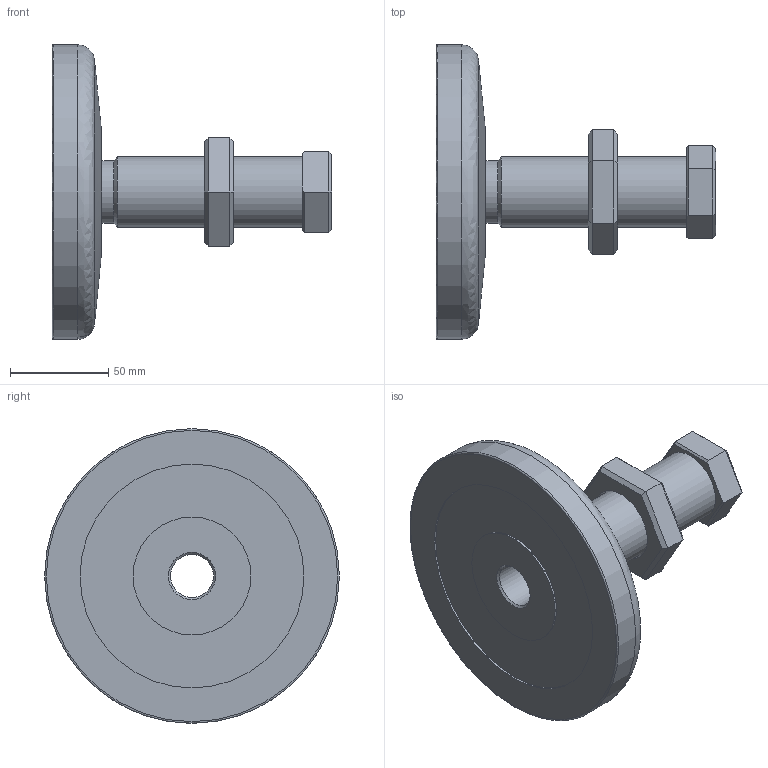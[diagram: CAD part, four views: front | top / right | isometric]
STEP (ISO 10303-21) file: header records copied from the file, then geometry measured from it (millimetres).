
FILE_DESCRIPTION(('STEP AP203'),'2;1');
FILE_NAME('12624F.stp','2014-02-21T08:36:43',(''),(''),'2008.1.107','THINKDESIGN','');
FILE_SCHEMA(('CONFIG_CONTROL_DESIGN'));
Length unit declared in the file: millimetre
Bounding box: 142.4 x 150 x 150 mm (x, y, z)
Volume: 487650.1 mm3; surface area: 77184.2 mm2
Topology: 4 solids, 4 shells, 65 faces, 161 edges, 107 vertices
Faces by surface type: bspline 34, plane 22, cylinder 9
Full cylindrical faces by diameter (mm): 22 x3, 32 x1, 34 x1, 36 x1, 60 x1, 114 x1, 150 x1
Entity records: 3204 total; most frequent: CARTESIAN_POINT 1509, ORIENTED_EDGE 318, DIRECTION 284, EDGE_CURVE 159, VERTEX_POINT 104, VECTOR 100, LINE 100, AXIS2_PLACEMENT_3D 92
